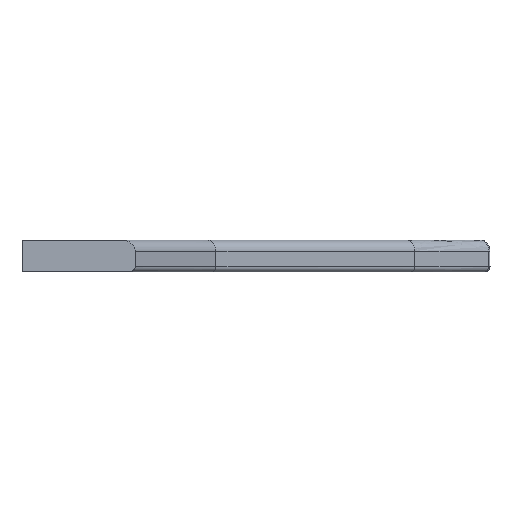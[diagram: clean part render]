
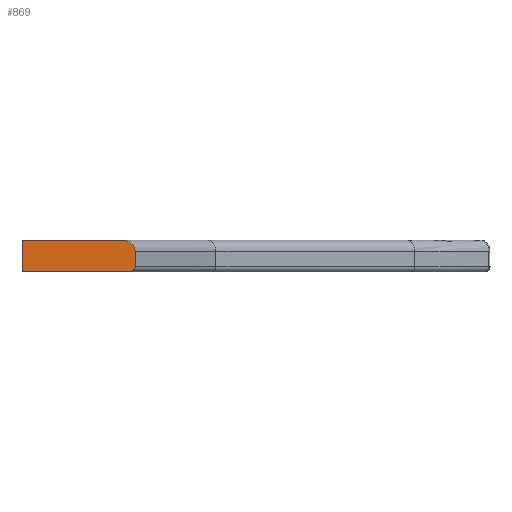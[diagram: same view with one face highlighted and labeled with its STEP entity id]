
A CAD part, left-side view. The second image highlights one B-rep face of the part: STEP entity #869.
In plain terms, the highlighted planar face has unit normal (-1, 0, 0).
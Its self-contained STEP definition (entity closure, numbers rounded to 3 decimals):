
#82 = VERTEX_POINT('',#83);
#83 = CARTESIAN_POINT('',(-22.25,22.25,12.5));
#89 = EDGE_CURVE('',#82,#90,#92,.T.);
#90 = VERTEX_POINT('',#91);
#91 = CARTESIAN_POINT('',(-22.25,-17.062,12.5));
#92 = LINE('',#93,#94);
#93 = CARTESIAN_POINT('',(-22.25,22.25,12.5));
#94 = VECTOR('',#95,1.);
#95 = DIRECTION('',(0.,-1.,0.));
#817 = EDGE_CURVE('',#818,#82,#820,.T.);
#818 = VERTEX_POINT('',#819);
#819 = CARTESIAN_POINT('',(-22.25,22.25,0.));
#820 = LINE('',#821,#822);
#821 = CARTESIAN_POINT('',(-22.25,22.25,0.));
#822 = VECTOR('',#823,1.);
#823 = DIRECTION('',(0.,0.,1.));
#869 = ADVANCED_FACE('',(#870),#906,.F.);
#870 = FACE_BOUND('',#871,.F.);
#871 = EDGE_LOOP('',(#872,#882,#891,#897,#898,#899));
#872 = ORIENTED_EDGE('',*,*,#873,.F.);
#873 = EDGE_CURVE('',#874,#876,#878,.T.);
#874 = VERTEX_POINT('',#875);
#875 = CARTESIAN_POINT('',(-22.25,-22.25,2.));
#876 = VERTEX_POINT('',#877);
#877 = CARTESIAN_POINT('',(-22.25,-22.25,8.1));
#878 = LINE('',#879,#880);
#879 = CARTESIAN_POINT('',(-22.25,-22.25,0.));
#880 = VECTOR('',#881,1.);
#881 = DIRECTION('',(0.,0.,1.));
#882 = ORIENTED_EDGE('',*,*,#883,.T.);
#883 = EDGE_CURVE('',#874,#884,#886,.T.);
#884 = VERTEX_POINT('',#885);
#885 = CARTESIAN_POINT('',(-22.25,-19.892,0.));
#886 = ELLIPSE('',#887,2.358,2.);
#887 = AXIS2_PLACEMENT_3D('',#888,#889,#890);
#888 = CARTESIAN_POINT('',(-22.25,-19.892,2.));
#889 = DIRECTION('',(1.,0.,0.));
#890 = DIRECTION('',(0.,1.,0.));
#891 = ORIENTED_EDGE('',*,*,#892,.F.);
#892 = EDGE_CURVE('',#818,#884,#893,.T.);
#893 = LINE('',#894,#895);
#894 = CARTESIAN_POINT('',(-22.25,22.25,0.));
#895 = VECTOR('',#896,1.);
#896 = DIRECTION('',(0.,-1.,0.));
#897 = ORIENTED_EDGE('',*,*,#817,.T.);
#898 = ORIENTED_EDGE('',*,*,#89,.T.);
#899 = ORIENTED_EDGE('',*,*,#900,.T.);
#900 = EDGE_CURVE('',#90,#876,#901,.T.);
#901 = ELLIPSE('',#902,5.188,4.4);
#902 = AXIS2_PLACEMENT_3D('',#903,#904,#905);
#903 = CARTESIAN_POINT('',(-22.25,-17.062,8.1));
#904 = DIRECTION('',(1.,0.,0.));
#905 = DIRECTION('',(0.,-1.,0.));
#906 = PLANE('',#907);
#907 = AXIS2_PLACEMENT_3D('',#908,#909,#910);
#908 = CARTESIAN_POINT('',(-22.25,22.25,0.));
#909 = DIRECTION('',(1.,0.,0.));
#910 = DIRECTION('',(0.,-1.,0.));
